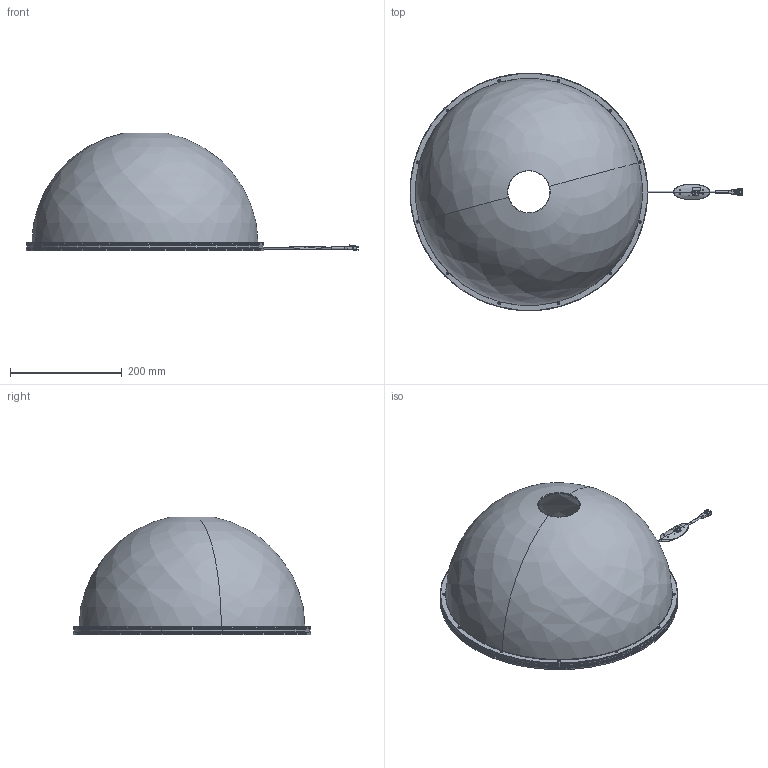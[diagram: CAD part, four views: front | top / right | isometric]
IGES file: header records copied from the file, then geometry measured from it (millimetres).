
Start section: 3D InterOp IGES (v. 2019 1.0.2), Spatial Corp. Copyright (c) 1999-2017.
Global section: file name: VDO-425_DRAWING_3D.iges; native system: Spatial Corp.; preprocessor: 3D InterOp ACIS/IGES; author: Noname; organization: Noname; date: 20230912.194352; units: millimetre
Bounding box: 593.5 x 425 x 210.9 mm (x, y, z)
Surface area: 741300.1 mm2 (no closed solid volume)
Topology: 0 solids, 0 shells, 1078 faces, 5638 edges, 5531 vertices
Faces by surface type: extrusion 610, revolution 462, bspline 6
